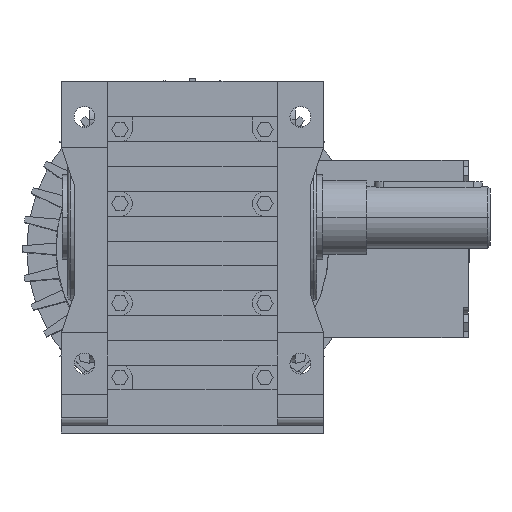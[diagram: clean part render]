
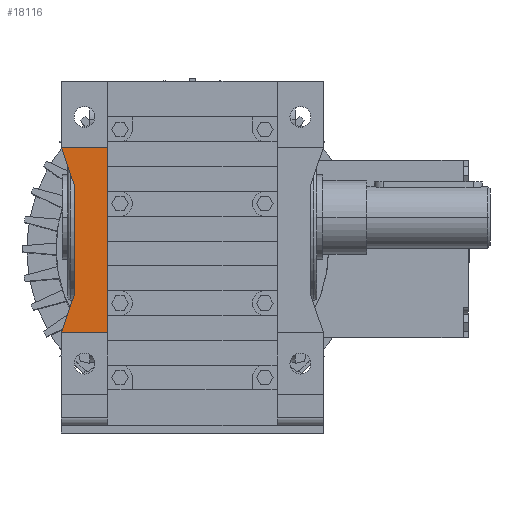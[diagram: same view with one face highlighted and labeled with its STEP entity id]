
A CAD part, top view. The second image highlights one B-rep face of the part: STEP entity #18116.
In plain terms, the highlighted planar face has unit normal (0, 0, 1).
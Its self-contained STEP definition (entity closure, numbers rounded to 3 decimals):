
#2250 = VERTEX_POINT('',#2251);
#2251 = CARTESIAN_POINT('',(-85.,-75.,87.55));
#2265 = PLANE('',#2266);
#2266 = AXIS2_PLACEMENT_3D('',#2267,#2268,#2269);
#2267 = CARTESIAN_POINT('',(-85.,-75.,90.));
#2268 = DIRECTION('',(-0.946,0.325,0.));
#2269 = DIRECTION('',(-0.325,-0.946,0.));
#2673 = PLANE('',#2674);
#2674 = AXIS2_PLACEMENT_3D('',#2675,#2676,#2677);
#2675 = CARTESIAN_POINT('',(85.,-75.,90.));
#2676 = DIRECTION('',(0.,-1.,0.));
#2677 = DIRECTION('',(0.,0.,-1.));
#5708 = PLANE('',#5709);
#5709 = AXIS2_PLACEMENT_3D('',#5710,#5711,#5712);
#5710 = CARTESIAN_POINT('',(-76.75,-51.,90.));
#5711 = DIRECTION('',(-1.,0.,0.));
#5712 = DIRECTION('',(0.,0.,1.));
#5736 = PLANE('',#5737);
#5737 = AXIS2_PLACEMENT_3D('',#5738,#5739,#5740);
#5738 = CARTESIAN_POINT('',(-76.75,21.,90.));
#5739 = DIRECTION('',(-0.946,-0.325,0.));
#5740 = DIRECTION('',(0.325,-0.946,0.));
#8229 = PLANE('',#8230);
#8230 = AXIS2_PLACEMENT_3D('',#8231,#8232,#8233);
#8231 = CARTESIAN_POINT('',(-55.,88.,75.55));
#8232 = DIRECTION('',(-1.,0.,0.));
#8233 = DIRECTION('',(0.,0.,1.));
#8359 = VERTEX_POINT('',#8360);
#8360 = CARTESIAN_POINT('',(-55.,-75.,87.55));
#8381 = EDGE_CURVE('',#8359,#2250,#8382,.T.);
#8382 = SURFACE_CURVE('',#8383,(#8387,#8394),.PCURVE_S1.);
#8383 = LINE('',#8384,#8385);
#8384 = CARTESIAN_POINT('',(85.,-75.,87.55));
#8385 = VECTOR('',#8386,1.);
#8386 = DIRECTION('',(-1.,0.,0.));
#8387 = PCURVE('',#2673,#8388);
#8388 = DEFINITIONAL_REPRESENTATION('',(#8389),#8393);
#8389 = LINE('',#8390,#8391);
#8390 = CARTESIAN_POINT('',(2.45,0.));
#8391 = VECTOR('',#8392,1.);
#8392 = DIRECTION('',(0.,-1.));
#8393 = ( GEOMETRIC_REPRESENTATION_CONTEXT(2) 
PARAMETRIC_REPRESENTATION_CONTEXT() REPRESENTATION_CONTEXT('2D SPACE',''
  ) );
#8394 = PCURVE('',#8395,#8400);
#8395 = PLANE('',#8396);
#8396 = AXIS2_PLACEMENT_3D('',#8397,#8398,#8399);
#8397 = CARTESIAN_POINT('',(85.,45.,87.55));
#8398 = DIRECTION('',(0.,0.,-1.));
#8399 = DIRECTION('',(0.,1.,0.));
#8400 = DEFINITIONAL_REPRESENTATION('',(#8401),#8405);
#8401 = LINE('',#8402,#8403);
#8402 = CARTESIAN_POINT('',(-120.,0.));
#8403 = VECTOR('',#8404,1.);
#8404 = DIRECTION('',(0.,-1.));
#8405 = ( GEOMETRIC_REPRESENTATION_CONTEXT(2) 
PARAMETRIC_REPRESENTATION_CONTEXT() REPRESENTATION_CONTEXT('2D SPACE',''
  ) );
#8822 = EDGE_CURVE('',#2250,#8823,#8825,.T.);
#8823 = VERTEX_POINT('',#8824);
#8824 = CARTESIAN_POINT('',(-76.75,-51.,87.55));
#8825 = SURFACE_CURVE('',#8826,(#8830,#8837),.PCURVE_S1.);
#8826 = LINE('',#8827,#8828);
#8827 = CARTESIAN_POINT('',(-30.144,84.581,87.55));
#8828 = VECTOR('',#8829,1.);
#8829 = DIRECTION('',(0.325,0.946,0.)
  );
#8830 = PCURVE('',#2265,#8831);
#8831 = DEFINITIONAL_REPRESENTATION('',(#8832),#8836);
#8832 = LINE('',#8833,#8834);
#8833 = CARTESIAN_POINT('',(-168.746,-2.45));
#8834 = VECTOR('',#8835,1.);
#8835 = DIRECTION('',(-1.,0.));
#8836 = ( GEOMETRIC_REPRESENTATION_CONTEXT(2) 
PARAMETRIC_REPRESENTATION_CONTEXT() REPRESENTATION_CONTEXT('2D SPACE',''
  ) );
#8837 = PCURVE('',#8395,#8838);
#8838 = DEFINITIONAL_REPRESENTATION('',(#8839),#8843);
#8839 = LINE('',#8840,#8841);
#8840 = CARTESIAN_POINT('',(39.581,-115.144));
#8841 = VECTOR('',#8842,1.);
#8842 = DIRECTION('',(0.946,0.325));
#8843 = ( GEOMETRIC_REPRESENTATION_CONTEXT(2) 
PARAMETRIC_REPRESENTATION_CONTEXT() REPRESENTATION_CONTEXT('2D SPACE',''
  ) );
#11083 = EDGE_CURVE('',#11084,#11086,#11088,.T.);
#11084 = VERTEX_POINT('',#11085);
#11085 = CARTESIAN_POINT('',(-76.75,21.,87.55));
#11086 = VERTEX_POINT('',#11087);
#11087 = CARTESIAN_POINT('',(-85.,45.,87.55));
#11088 = SURFACE_CURVE('',#11089,(#11093,#11100),.PCURVE_S1.);
#11089 = LINE('',#11090,#11091);
#11090 = CARTESIAN_POINT('',(-67.035,-7.262,87.55));
#11091 = VECTOR('',#11092,1.);
#11092 = DIRECTION('',(-0.325,0.946,
    0.));
#11093 = PCURVE('',#5736,#11094);
#11094 = DEFINITIONAL_REPRESENTATION('',(#11095),#11099);
#11095 = LINE('',#11096,#11097);
#11096 = CARTESIAN_POINT('',(29.885,-2.45));
#11097 = VECTOR('',#11098,1.);
#11098 = DIRECTION('',(-1.,0.));
#11099 = ( GEOMETRIC_REPRESENTATION_CONTEXT(2) 
PARAMETRIC_REPRESENTATION_CONTEXT() REPRESENTATION_CONTEXT('2D SPACE',''
  ) );
#11100 = PCURVE('',#8395,#11101);
#11101 = DEFINITIONAL_REPRESENTATION('',(#11102),#11106);
#11102 = LINE('',#11103,#11104);
#11103 = CARTESIAN_POINT('',(-52.262,-152.035));
#11104 = VECTOR('',#11105,1.);
#11105 = DIRECTION('',(0.946,-0.325));
#11106 = ( GEOMETRIC_REPRESENTATION_CONTEXT(2) 
PARAMETRIC_REPRESENTATION_CONTEXT() REPRESENTATION_CONTEXT('2D SPACE',''
  ) );
#12043 = EDGE_CURVE('',#8823,#11084,#12044,.T.);
#12044 = SURFACE_CURVE('',#12045,(#12049,#12056),.PCURVE_S1.);
#12045 = LINE('',#12046,#12047);
#12046 = CARTESIAN_POINT('',(-76.75,45.,87.55));
#12047 = VECTOR('',#12048,1.);
#12048 = DIRECTION('',(0.,1.,0.));
#12049 = PCURVE('',#5708,#12050);
#12050 = DEFINITIONAL_REPRESENTATION('',(#12051),#12055);
#12051 = LINE('',#12052,#12053);
#12052 = CARTESIAN_POINT('',(-2.45,96.));
#12053 = VECTOR('',#12054,1.);
#12054 = DIRECTION('',(0.,1.));
#12055 = ( GEOMETRIC_REPRESENTATION_CONTEXT(2) 
PARAMETRIC_REPRESENTATION_CONTEXT() REPRESENTATION_CONTEXT('2D SPACE',''
  ) );
#12056 = PCURVE('',#8395,#12057);
#12057 = DEFINITIONAL_REPRESENTATION('',(#12058),#12062);
#12058 = LINE('',#12059,#12060);
#12059 = CARTESIAN_POINT('',(0.,-161.75));
#12060 = VECTOR('',#12061,1.);
#12061 = DIRECTION('',(1.,0.));
#12062 = ( GEOMETRIC_REPRESENTATION_CONTEXT(2) 
PARAMETRIC_REPRESENTATION_CONTEXT() REPRESENTATION_CONTEXT('2D SPACE',''
  ) );
#12087 = PLANE('',#12088);
#12088 = AXIS2_PLACEMENT_3D('',#12089,#12090,#12091);
#12089 = CARTESIAN_POINT('',(85.,45.,90.));
#12090 = DIRECTION('',(0.,1.,0.));
#12091 = DIRECTION('',(0.,0.,1.));
#18046 = VERTEX_POINT('',#18047);
#18047 = CARTESIAN_POINT('',(-55.,45.,87.55));
#18068 = EDGE_CURVE('',#8359,#18046,#18069,.T.);
#18069 = SURFACE_CURVE('',#18070,(#18074,#18081),.PCURVE_S1.);
#18070 = LINE('',#18071,#18072);
#18071 = CARTESIAN_POINT('',(-55.,45.,87.55));
#18072 = VECTOR('',#18073,1.);
#18073 = DIRECTION('',(0.,1.,0.));
#18074 = PCURVE('',#8229,#18075);
#18075 = DEFINITIONAL_REPRESENTATION('',(#18076),#18080);
#18076 = LINE('',#18077,#18078);
#18077 = CARTESIAN_POINT('',(12.,-43.));
#18078 = VECTOR('',#18079,1.);
#18079 = DIRECTION('',(0.,1.));
#18080 = ( GEOMETRIC_REPRESENTATION_CONTEXT(2) 
PARAMETRIC_REPRESENTATION_CONTEXT() REPRESENTATION_CONTEXT('2D SPACE',''
  ) );
#18081 = PCURVE('',#8395,#18082);
#18082 = DEFINITIONAL_REPRESENTATION('',(#18083),#18087);
#18083 = LINE('',#18084,#18085);
#18084 = CARTESIAN_POINT('',(0.,-140.));
#18085 = VECTOR('',#18086,1.);
#18086 = DIRECTION('',(1.,0.));
#18087 = ( GEOMETRIC_REPRESENTATION_CONTEXT(2) 
PARAMETRIC_REPRESENTATION_CONTEXT() REPRESENTATION_CONTEXT('2D SPACE',''
  ) );
#18116 = ADVANCED_FACE('',(#18117),#8395,.F.);
#18117 = FACE_BOUND('',#18118,.T.);
#18118 = EDGE_LOOP('',(#18119,#18120,#18121,#18142,#18143,#18144));
#18119 = ORIENTED_EDGE('',*,*,#8381,.F.);
#18120 = ORIENTED_EDGE('',*,*,#18068,.T.);
#18121 = ORIENTED_EDGE('',*,*,#18122,.T.);
#18122 = EDGE_CURVE('',#18046,#11086,#18123,.T.);
#18123 = SURFACE_CURVE('',#18124,(#18128,#18135),.PCURVE_S1.);
#18124 = LINE('',#18125,#18126);
#18125 = CARTESIAN_POINT('',(85.,45.,87.55));
#18126 = VECTOR('',#18127,1.);
#18127 = DIRECTION('',(-1.,0.,0.));
#18128 = PCURVE('',#8395,#18129);
#18129 = DEFINITIONAL_REPRESENTATION('',(#18130),#18134);
#18130 = LINE('',#18131,#18132);
#18131 = CARTESIAN_POINT('',(0.,0.));
#18132 = VECTOR('',#18133,1.);
#18133 = DIRECTION('',(0.,-1.));
#18134 = ( GEOMETRIC_REPRESENTATION_CONTEXT(2) 
PARAMETRIC_REPRESENTATION_CONTEXT() REPRESENTATION_CONTEXT('2D SPACE',''
  ) );
#18135 = PCURVE('',#12087,#18136);
#18136 = DEFINITIONAL_REPRESENTATION('',(#18137),#18141);
#18137 = LINE('',#18138,#18139);
#18138 = CARTESIAN_POINT('',(-2.45,0.));
#18139 = VECTOR('',#18140,1.);
#18140 = DIRECTION('',(0.,-1.));
#18141 = ( GEOMETRIC_REPRESENTATION_CONTEXT(2) 
PARAMETRIC_REPRESENTATION_CONTEXT() REPRESENTATION_CONTEXT('2D SPACE',''
  ) );
#18142 = ORIENTED_EDGE('',*,*,#11083,.F.);
#18143 = ORIENTED_EDGE('',*,*,#12043,.F.);
#18144 = ORIENTED_EDGE('',*,*,#8822,.F.);
